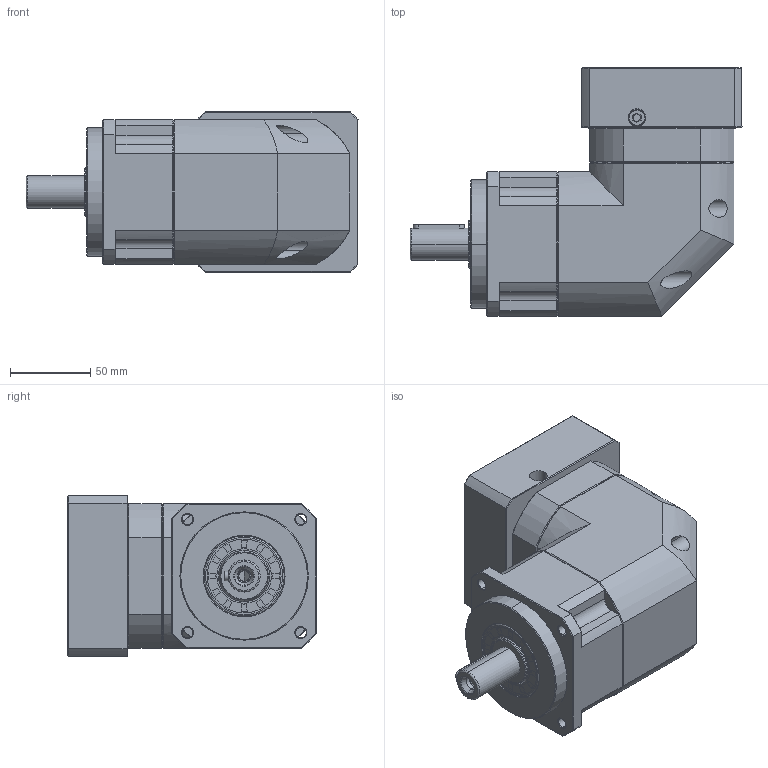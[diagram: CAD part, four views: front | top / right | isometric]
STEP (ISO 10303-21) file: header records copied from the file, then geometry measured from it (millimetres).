
FILE_DESCRIPTION (( 'STEP AP214' ), '1' );
FILE_NAME ('ZPBR090-D20-L1-P1-22-95-115-M8.step', '2024-06-07T18:29:45', ( 'Windows 蚚誧' ), ( 'Organization' ), 'SwSTEP 2.0', 'SolidWorks 2016', '' );
FILE_SCHEMA (( 'AUTOMOTIVE_DESIGN' ));
Length unit declared in the file: millimetre
Products named in the file (1): ZPBR090-D20-L1-P1-22-95-115-M8
Bounding box: 207 x 155 x 100 mm (x, y, z)
Surface area: 134295 mm2 (no closed solid volume)
Topology: 0 solids, 34 shells, 1820 faces, 4859 edges, 3124 vertices
Faces by surface type: plane 973, bspline 373, cone 240, cylinder 217, torus 17
Full cylindrical faces by diameter (mm): 6.72 x1
Entity records: 91913 total; most frequent: CARTESIAN_POINT 45629, ORIENTED_EDGE 9668, DIRECTION 7516, EDGE_CURVE 4854, LINE 3232, VECTOR 3232, VERTEX_POINT 3122, AXIS2_PLACEMENT_3D 2142
